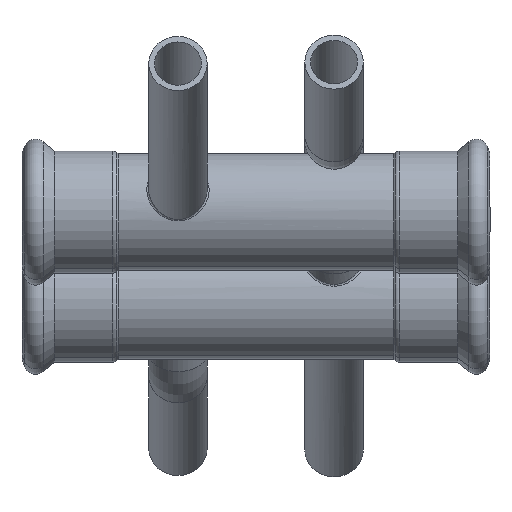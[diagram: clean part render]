
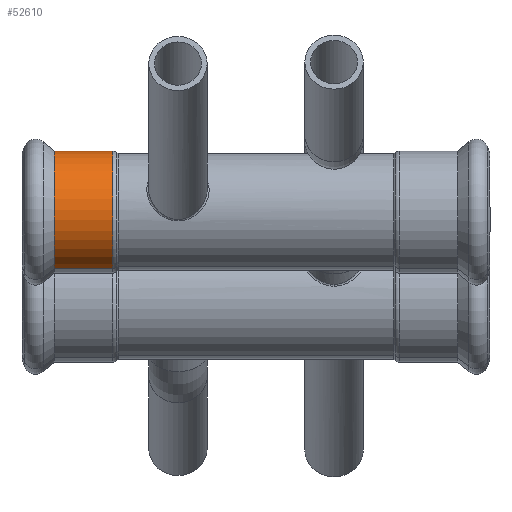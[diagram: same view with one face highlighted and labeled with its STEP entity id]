
A CAD part, top view. The second image highlights one B-rep face of the part: STEP entity #52610.
In plain terms, the highlighted cylindrical face has radius 15.65 mm (diameter 31.3 mm), a partial arc.
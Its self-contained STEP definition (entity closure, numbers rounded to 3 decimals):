
#51630=CARTESIAN_POINT('',(22.114,178.546,0.));
#51640=VERTEX_POINT('',#51630);
#51690=CARTESIAN_POINT('',(22.114,194.196,0.));
#51700=DIRECTION('',(1.,0.,0.));
#51710=DIRECTION('',(0.,-1.,0.));
#51720=AXIS2_PLACEMENT_3D('',#51690,#51700,#51710);
#51730=CIRCLE('',#51720,15.65);
#51740=CARTESIAN_POINT('',(22.114,209.846,
0.));
#51750=VERTEX_POINT('',#51740);
#51760=EDGE_CURVE('',#51750,#51640,#51730,.T.);
#52080=CARTESIAN_POINT('',(7.05,178.546,0.));
#52090=VERTEX_POINT('',#52080);
#52260=CARTESIAN_POINT('',(7.05,209.846,0.));
#52270=VERTEX_POINT('',#52260);
#52300=CARTESIAN_POINT('',(7.05,194.196,0.));
#52310=DIRECTION('',(1.,0.,0.));
#52320=DIRECTION('',(0.,-1.,-0.));
#52330=AXIS2_PLACEMENT_3D('',#52300,#52310,#52320);
#52340=CIRCLE('',#52330,15.65);
#52350=EDGE_CURVE('',#52270,#52090,#52340,.T.);
#52400=CARTESIAN_POINT('',(14.582,194.196,0.));
#52410=DIRECTION('',(1.,0.,0.));
#52420=DIRECTION('',(-0.,-1.,-0.));
#52430=AXIS2_PLACEMENT_3D('',#52400,#52410,#52420);
#52440=CYLINDRICAL_SURFACE('',#52430,15.65);
#52450=CARTESIAN_POINT('',(14.582,178.546,0.));
#52460=DIRECTION('',(1.,0.,0.));
#52470=VECTOR('',#52460,1.);
#52480=LINE('',#52450,#52470);
#52490=EDGE_CURVE('',#52090,#51640,#52480,.T.);
#52500=ORIENTED_EDGE('',*,*,#52490,.T.);
#52510=ORIENTED_EDGE('',*,*,#52350,.T.);
#52520=CARTESIAN_POINT('',(14.582,209.846,
0.));
#52530=DIRECTION('',(1.,0.,0.));
#52540=VECTOR('',#52530,1.);
#52550=LINE('',#52520,#52540);
#52560=EDGE_CURVE('',#52270,#51750,#52550,.T.);
#52570=ORIENTED_EDGE('',*,*,#52560,.F.);
#52580=ORIENTED_EDGE('',*,*,#51760,.F.);
#52590=EDGE_LOOP('',(#52580,#52570,#52510,#52500));
#52600=FACE_OUTER_BOUND('',#52590,.T.);
#52610=ADVANCED_FACE('',(#52600),#52440,.T.);
